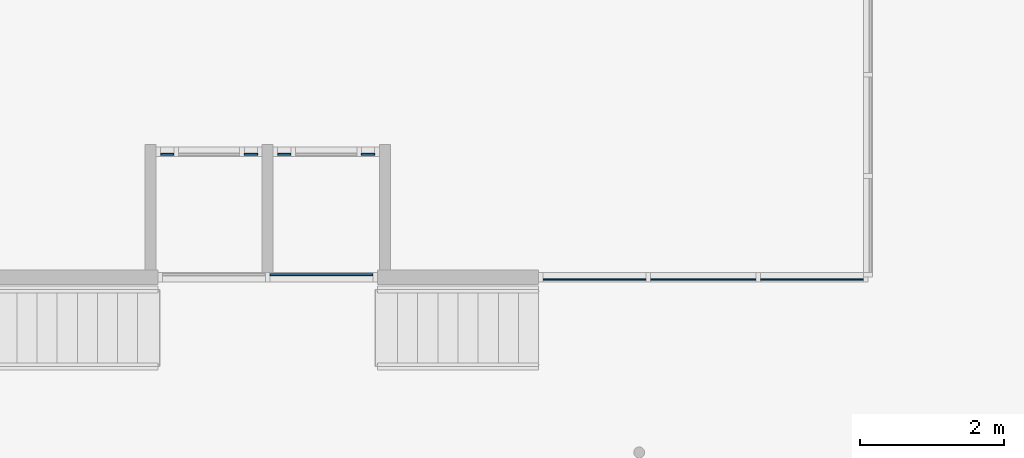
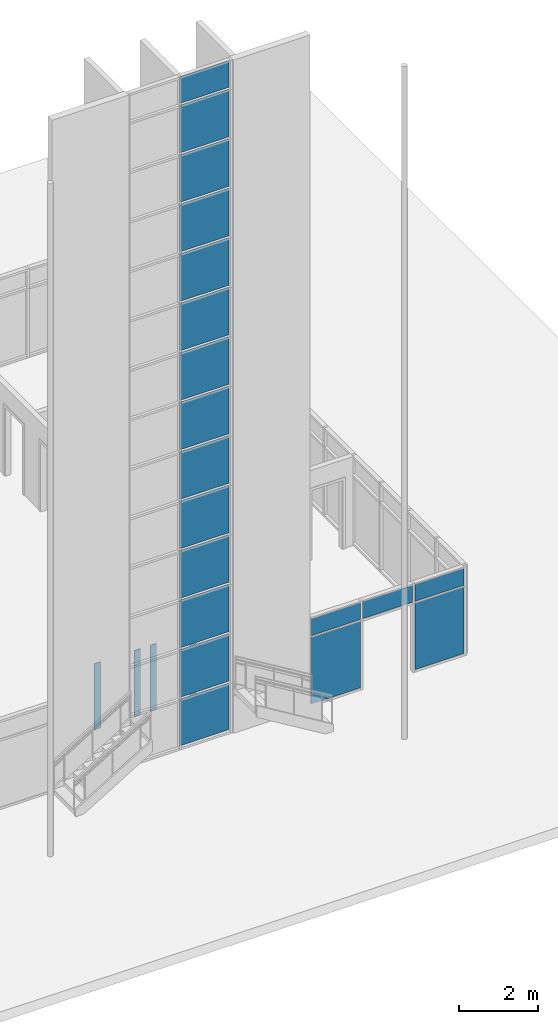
# One storey, part 7 of 12: 23 plates, 4 elements without a shape of their own.
"""IFC2X3 building model written with IfcOpenShell, lengths in feet."""

from ifc_helpers import new_model, entity, si_unit, converted_unit, derived_unit, direction, frame, frame_2d, origin, place, context, subcontext, project, spatial, rectangle, extrude, source, transform, mapped, material, layer, layer_set, layer_usage, type_object, type_shapes, element, aggregate, save


model = new_model("IFC2X3")

# Units and contexts
model_context = context("Model", 3, precision=0.0001, world=origin(), true_north=direction((6.12303176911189e-17, 1.0)))
body_context = subcontext(model_context, "Body", "Model", "MODEL_VIEW")
ifc_project = project(units=[converted_unit("LENGTHUNIT", "FOOT", entity("IfcRatioMeasure", 0.3048), si_unit("LENGTHUNIT", "METRE"), dimensions=[1, 0, 0, 0, 0, 0, 0]), converted_unit("AREAUNIT", "SQUARE FOOT", entity("IfcRatioMeasure", 0.09290304), si_unit("AREAUNIT", "SQUARE_METRE"), dimensions=[2, 0, 0, 0, 0, 0, 0]), converted_unit("VOLUMEUNIT", "CUBIC FOOT", entity("IfcRatioMeasure", 0.028316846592), si_unit("VOLUMEUNIT", "CUBIC_METRE"), dimensions=[3, 0, 0, 0, 0, 0, 0]), converted_unit("PLANEANGLEUNIT", "DEGREE", entity("IfcRatioMeasure", 0.0174532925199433), si_unit("PLANEANGLEUNIT", "RADIAN"), dimensions=[0, 0, 0, 0, 0, 0, 0]), si_unit("MASSUNIT", "GRAM", prefix="KILO"), derived_unit("MASSDENSITYUNIT", [(si_unit("MASSUNIT", "GRAM", prefix="KILO"), 1), (si_unit("LENGTHUNIT", "METRE"), -3)]), si_unit("TIMEUNIT", "SECOND"), si_unit("FREQUENCYUNIT", "HERTZ"), si_unit("THERMODYNAMICTEMPERATUREUNIT", "DEGREE_CELSIUS"), derived_unit("THERMALTRANSMITTANCEUNIT", [(si_unit("MASSUNIT", "GRAM", prefix="KILO"), 1), (si_unit("THERMODYNAMICTEMPERATUREUNIT", "KELVIN"), -1), (si_unit("TIMEUNIT", "SECOND"), -3)]), derived_unit("VOLUMETRICFLOWRATEUNIT", [(si_unit("LENGTHUNIT", "METRE"), 3), (si_unit("TIMEUNIT", "SECOND"), -1)]), si_unit("ELECTRICCURRENTUNIT", "AMPERE"), si_unit("ELECTRICVOLTAGEUNIT", "VOLT"), si_unit("POWERUNIT", "WATT"), si_unit("FORCEUNIT", "NEWTON"), si_unit("ILLUMINANCEUNIT", "LUX"), si_unit("LUMINOUSFLUXUNIT", "LUMEN"), si_unit("LUMINOUSINTENSITYUNIT", "CANDELA"), derived_unit("USERDEFINED", [(si_unit("MASSUNIT", "GRAM", prefix="KILO"), -1), (si_unit("LENGTHUNIT", "METRE"), -2), (si_unit("TIMEUNIT", "SECOND"), 3), (si_unit("LUMINOUSFLUXUNIT", "LUMEN"), 1)]), derived_unit("LINEARVELOCITYUNIT", [(si_unit("LENGTHUNIT", "METRE"), 1), (si_unit("TIMEUNIT", "SECOND"), -1)]), si_unit("PRESSUREUNIT", "PASCAL"), derived_unit("USERDEFINED", [(si_unit("LENGTHUNIT", "METRE"), -2), (si_unit("MASSUNIT", "GRAM", prefix="KILO"), 1), (si_unit("TIMEUNIT", "SECOND"), -2)])], contexts=[model_context])

# Site, building, storey
site_placement = place(None, origin())
site = spatial("IfcSite", under=ifc_project, at=site_placement, Name="Default", CompositionType="ELEMENT")
building_placement = place(site_placement, origin())
building = spatial("IfcBuilding", under=site, at=building_placement, CompositionType="ELEMENT")
storey_placement = place(building_placement, origin())
storey = spatial("IfcBuildingStorey", under=building, at=storey_placement, Name="Level 1", CompositionType="ELEMENT", Elevation=0.0)

# Curtain wall, plates
curtain_wall_type_1 = type_object("IfcCurtainWallType", Name="Curtain Wall:Storefront", PredefinedType="NOTDEFINED")
curtain_wall_1_placement = place(storey_placement, origin())
curtain_wall_1 = element("IfcCurtainWall", 1, at=curtain_wall_1_placement, inside=storey, type_object=curtain_wall_type_1, Name="Curtain Wall:Storefront", ObjectType="Curtain Wall:Storefront")
ifc_material = material(Name="<Unnamed>")
ifc_layer = layer(ifc_material, 0.0833333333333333)
ifc_layer_set = layer_set([ifc_layer], Name="Curtain Wall:Storefront")
ifc_layer_usage_1 = layer_usage(ifc_layer_set, "AXIS3", "POSITIVE", 0.104166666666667)
plate_type_1 = type_object("IfcPlateType", Name="Glazed", PredefinedType="CURTAIN_PANEL", material=ifc_layer_set)
shared_shape_1 = source(origin(), body_context, "Body", "SweptSolid", [
    extrude(rectangle(XDim=0.0833333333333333, YDim=4.6875, at=frame_2d((-6.93889390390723e-18, 0.0), x_axis=(1.0, 0.0))), frame((0.0, 0.104166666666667, 0.0), z_axis=(0.0, 0.0, 1.0), x_axis=(0.0, 1.0, 0.0)), (0.0, 0.0, 1.0), 4.6875),
])
type_shapes(plate_type_1, [shared_shape_1])
plate_1_placement = place(curtain_wall_1_placement, frame((-31.5439127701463, -6.94114126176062, 0.208333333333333)))
plate_1 = element("IfcPlate", 2, at=plate_1_placement, type_object=plate_type_1, material=ifc_layer_usage_1, Name="System Panel:Glazed", ObjectType="Glazed", context=body_context, shape_type="MappedRepresentation", body=[
    mapped(shared_shape_1, transform((0.0, 0.0, 0.0), scale=1.0)),
])
ifc_layer_usage_2 = layer_usage(ifc_layer_set, "AXIS3", "POSITIVE", 0.104166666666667)
plate_type_2 = type_object("IfcPlateType", Name="Glazed", PredefinedType="CURTAIN_PANEL", material=ifc_layer_set)
shared_shape_2 = source(origin(), body_context, "Body", "SweptSolid", [
    extrude(rectangle(XDim=0.0833333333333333, YDim=4.6875, at=frame_2d((-6.93889390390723e-18, 0.0), x_axis=(1.0, 0.0))), frame((0.0, 0.104166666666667, 0.0), z_axis=(0.0, 0.0, 1.0), x_axis=(0.0, 1.0, 0.0)), (0.0, 0.0, 1.0), 4.79166666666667),
])
type_shapes(plate_type_2, [shared_shape_2])
plate_2_placement = place(curtain_wall_1_placement, frame((-31.5439127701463, -6.94114126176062, 5.10416666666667)))
plate_2 = element("IfcPlate", 3, at=plate_2_placement, type_object=plate_type_2, material=ifc_layer_usage_2, Name="System Panel:Glazed", ObjectType="Glazed", context=body_context, shape_type="MappedRepresentation", body=[
    mapped(shared_shape_2, transform((0.0, 0.0, 0.0), scale=1.0)),
])
ifc_layer_usage_3 = layer_usage(ifc_layer_set, "AXIS3", "POSITIVE", 0.104166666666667)
plate_3_placement = place(curtain_wall_1_placement, frame((-31.5439127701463, -6.94114126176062, 10.1041666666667)))
plate_3 = element("IfcPlate", 4, at=plate_3_placement, type_object=plate_type_2, material=ifc_layer_usage_3, Name="System Panel:Glazed", ObjectType="Glazed", context=body_context, shape_type="MappedRepresentation", body=[
    mapped(shared_shape_2, transform((0.0, 0.0, 0.0), scale=1.0)),
])
ifc_layer_usage_4 = layer_usage(ifc_layer_set, "AXIS3", "POSITIVE", 0.104166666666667)
plate_4_placement = place(curtain_wall_1_placement, frame((-31.5439127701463, -6.94114126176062, 15.1041666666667)))
plate_4 = element("IfcPlate", 5, at=plate_4_placement, type_object=plate_type_2, material=ifc_layer_usage_4, Name="System Panel:Glazed", ObjectType="Glazed", context=body_context, shape_type="MappedRepresentation", body=[
    mapped(shared_shape_2, transform((0.0, 0.0, 0.0), scale=1.0)),
])
ifc_layer_usage_5 = layer_usage(ifc_layer_set, "AXIS3", "POSITIVE", 0.104166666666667)
plate_5_placement = place(curtain_wall_1_placement, frame((-31.5439127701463, -6.94114126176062, 20.1041666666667)))
plate_5 = element("IfcPlate", 6, at=plate_5_placement, type_object=plate_type_2, material=ifc_layer_usage_5, Name="System Panel:Glazed", ObjectType="Glazed", context=body_context, shape_type="MappedRepresentation", body=[
    mapped(shared_shape_2, transform((0.0, 0.0, 0.0), scale=1.0)),
])
ifc_layer_usage_6 = layer_usage(ifc_layer_set, "AXIS3", "POSITIVE", 0.104166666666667)
plate_6_placement = place(curtain_wall_1_placement, frame((-31.5439127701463, -6.94114126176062, 25.1041666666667)))
plate_6 = element("IfcPlate", 7, at=plate_6_placement, type_object=plate_type_2, material=ifc_layer_usage_6, Name="System Panel:Glazed", ObjectType="Glazed", context=body_context, shape_type="MappedRepresentation", body=[
    mapped(shared_shape_2, transform((0.0, 0.0, 0.0), scale=1.0)),
])
ifc_layer_usage_7 = layer_usage(ifc_layer_set, "AXIS3", "POSITIVE", 0.104166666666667)
plate_7_placement = place(curtain_wall_1_placement, frame((-31.5439127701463, -6.94114126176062, 30.1041666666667)))
plate_7 = element("IfcPlate", 8, at=plate_7_placement, type_object=plate_type_2, material=ifc_layer_usage_7, Name="System Panel:Glazed", ObjectType="Glazed", context=body_context, shape_type="MappedRepresentation", body=[
    mapped(shared_shape_2, transform((0.0, 0.0, 0.0), scale=1.0)),
])
ifc_layer_usage_8 = layer_usage(ifc_layer_set, "AXIS3", "POSITIVE", 0.104166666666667)
plate_8_placement = place(curtain_wall_1_placement, frame((-31.5439127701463, -6.94114126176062, 35.1041666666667)))
plate_8 = element("IfcPlate", 9, at=plate_8_placement, type_object=plate_type_2, material=ifc_layer_usage_8, Name="System Panel:Glazed", ObjectType="Glazed", context=body_context, shape_type="MappedRepresentation", body=[
    mapped(shared_shape_2, transform((0.0, 0.0, 0.0), scale=1.0)),
])
ifc_layer_usage_9 = layer_usage(ifc_layer_set, "AXIS3", "POSITIVE", 0.104166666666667)
plate_9_placement = place(curtain_wall_1_placement, frame((-31.5439127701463, -6.94114126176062, 40.1041666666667)))
plate_9 = element("IfcPlate", 10, at=plate_9_placement, type_object=plate_type_2, material=ifc_layer_usage_9, Name="System Panel:Glazed", ObjectType="Glazed", context=body_context, shape_type="MappedRepresentation", body=[
    mapped(shared_shape_2, transform((0.0, 0.0, 0.0), scale=1.0)),
])
ifc_layer_usage_10 = layer_usage(ifc_layer_set, "AXIS3", "POSITIVE", 0.104166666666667)
plate_10_placement = place(curtain_wall_1_placement, frame((-31.5439127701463, -6.94114126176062, 45.1041666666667)))
plate_10 = element("IfcPlate", 11, at=plate_10_placement, type_object=plate_type_2, material=ifc_layer_usage_10, Name="System Panel:Glazed", ObjectType="Glazed", context=body_context, shape_type="MappedRepresentation", body=[
    mapped(shared_shape_2, transform((0.0, 0.0, 0.0), scale=1.0)),
])
ifc_layer_usage_11 = layer_usage(ifc_layer_set, "AXIS3", "POSITIVE", 0.104166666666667)
plate_11_placement = place(curtain_wall_1_placement, frame((-31.5439127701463, -6.94114126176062, 50.1041666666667)))
plate_11 = element("IfcPlate", 12, at=plate_11_placement, type_object=plate_type_2, material=ifc_layer_usage_11, Name="System Panel:Glazed", ObjectType="Glazed", context=body_context, shape_type="MappedRepresentation", body=[
    mapped(shared_shape_2, transform((0.0, 0.0, 0.0), scale=1.0)),
])
ifc_layer_usage_12 = layer_usage(ifc_layer_set, "AXIS3", "POSITIVE", 0.104166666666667)
plate_12_placement = place(curtain_wall_1_placement, frame((-31.5439127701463, -6.94114126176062, 55.1041666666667)))
plate_12 = element("IfcPlate", 13, at=plate_12_placement, type_object=plate_type_2, material=ifc_layer_usage_12, Name="System Panel:Glazed", ObjectType="Glazed", context=body_context, shape_type="MappedRepresentation", body=[
    mapped(shared_shape_2, transform((0.0, 0.0, 0.0), scale=1.0)),
])
ifc_layer_usage_13 = layer_usage(ifc_layer_set, "AXIS3", "POSITIVE", 0.104166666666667)
plate_13_placement = place(curtain_wall_1_placement, frame((-31.5439127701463, -6.94114126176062, 60.1041666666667)))
plate_13 = element("IfcPlate", 14, at=plate_13_placement, type_object=plate_type_2, material=ifc_layer_usage_13, Name="System Panel:Glazed", ObjectType="Glazed", context=body_context, shape_type="MappedRepresentation", body=[
    mapped(shared_shape_2, transform((0.0, 0.0, 0.0), scale=1.0)),
])
ifc_layer_usage_14 = layer_usage(ifc_layer_set, "AXIS3", "POSITIVE", 0.104166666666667)
plate_type_3 = type_object("IfcPlateType", Name="Glazed", PredefinedType="CURTAIN_PANEL", material=ifc_layer_set)
shared_shape_3 = source(origin(), body_context, "Body", "SweptSolid", [
    extrude(rectangle(XDim=0.0833333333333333, YDim=4.6875, at=frame_2d((-6.93889390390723e-18, 0.0), x_axis=(1.0, 0.0))), frame((0.0, 0.104166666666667, 0.0), z_axis=(0.0, 0.0, 1.0), x_axis=(0.0, 1.0, 0.0)), (0.0, 0.0, 1.0), 2.6875),
])
type_shapes(plate_type_3, [shared_shape_3])
plate_14_placement = place(curtain_wall_1_placement, frame((-31.5439127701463, -6.94114126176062, 65.1041666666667)))
plate_14 = element("IfcPlate", 15, at=plate_14_placement, type_object=plate_type_3, material=ifc_layer_usage_14, Name="System Panel:Glazed", ObjectType="Glazed", context=body_context, shape_type="MappedRepresentation", body=[
    mapped(shared_shape_3, transform((0.0, 0.0, 0.0), scale=1.0)),
])
aggregate(curtain_wall_1, [plate_1, plate_2, plate_3, plate_4, plate_5, plate_6, plate_7, plate_8, plate_9, plate_10, plate_11, plate_12, plate_13, plate_14])

curtain_wall_type_2 = type_object("IfcCurtainWallType", Name="Curtain Wall:Storefront 2", PredefinedType="NOTDEFINED")
curtain_wall_2_placement = place(storey_placement, origin())
curtain_wall_2 = element("IfcCurtainWall", 16, at=curtain_wall_2_placement, inside=storey, type_object=curtain_wall_type_2, Name="Curtain Wall:Storefront 2", ObjectType="Curtain Wall:Storefront 2")
ifc_layer_usage_15 = layer_usage(ifc_layer_set, "AXIS3", "POSITIVE", 0.104166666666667)
plate_type_4 = type_object("IfcPlateType", Name="Glazed", PredefinedType="CURTAIN_PANEL", material=ifc_layer_set)
shared_shape_4 = source(origin(), body_context, "Body", "SweptSolid", [
    extrude(rectangle(XDim=0.0833333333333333, YDim=4.6875, at=frame_2d((-6.93889390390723e-18, 0.0), x_axis=(1.0, 0.0))), frame((0.0, 0.104166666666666, 0.0), z_axis=(0.0, 0.0, 1.0), x_axis=(0.0, 1.0, 0.0)), (0.0, 0.0, 1.0), 6.6875),
])
type_shapes(plate_type_4, [shared_shape_4])
plate_15_placement = place(curtain_wall_2_placement, frame((-9.21057943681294, -6.94114126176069, 0.208333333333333), z_axis=(0.0, 0.0, 1.0), x_axis=(-1.0, 0.0, 0.0)))
plate_15 = element("IfcPlate", 17, at=plate_15_placement, type_object=plate_type_4, material=ifc_layer_usage_15, Name="System Panel:Glazed", ObjectType="Glazed", context=body_context, shape_type="MappedRepresentation", body=[
    mapped(shared_shape_4, transform((0.0, 0.0, 0.0), scale=1.0)),
])
ifc_layer_usage_16 = layer_usage(ifc_layer_set, "AXIS3", "POSITIVE", 0.104166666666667)
plate_16_placement = place(curtain_wall_2_placement, frame((-19.1064127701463, -6.94114126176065, 0.208333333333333), z_axis=(0.0, 0.0, 1.0), x_axis=(-1.0, 0.0, 0.0)))
plate_16 = element("IfcPlate", 18, at=plate_16_placement, type_object=plate_type_4, material=ifc_layer_usage_16, Name="System Panel:Glazed", ObjectType="Glazed", context=body_context, shape_type="MappedRepresentation", body=[
    mapped(shared_shape_4, transform((0.0, 0.0, 0.0), scale=1.0)),
])
ifc_layer_usage_17 = layer_usage(ifc_layer_set, "AXIS3", "POSITIVE", 0.104166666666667)
plate_type_5 = type_object("IfcPlateType", Name="Glazed", PredefinedType="CURTAIN_PANEL", material=ifc_layer_set)
shared_shape_5 = source(origin(), body_context, "Body", "SweptSolid", [
    extrude(rectangle(XDim=0.0833333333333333, YDim=4.6875, at=frame_2d((-6.93889390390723e-18, 0.0), x_axis=(1.0, 0.0))), frame((0.0, 0.104166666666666, 0.0), z_axis=(0.0, 0.0, 1.0), x_axis=(0.0, 1.0, 0.0)), (0.0, 0.0, 1.0), 1.6875),
])
type_shapes(plate_type_5, [shared_shape_5])
plate_17_placement = place(curtain_wall_2_placement, frame((-9.21057943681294, -6.94114126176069, 7.10416666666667), z_axis=(0.0, 0.0, 1.0), x_axis=(-1.0, 0.0, 0.0)))
plate_17 = element("IfcPlate", 19, at=plate_17_placement, type_object=plate_type_5, material=ifc_layer_usage_17, Name="System Panel:Glazed", ObjectType="Glazed", context=body_context, shape_type="MappedRepresentation", body=[
    mapped(shared_shape_5, transform((0.0, 0.0, 0.0), scale=1.0)),
])
ifc_layer_usage_18 = layer_usage(ifc_layer_set, "AXIS3", "POSITIVE", 0.104166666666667)
plate_18_placement = place(curtain_wall_2_placement, frame((-19.1064127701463, -6.94114126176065, 7.10416666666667), z_axis=(0.0, 0.0, 1.0), x_axis=(-1.0, 0.0, 0.0)))
plate_18 = element("IfcPlate", 20, at=plate_18_placement, type_object=plate_type_5, material=ifc_layer_usage_18, Name="System Panel:Glazed", ObjectType="Glazed", context=body_context, shape_type="MappedRepresentation", body=[
    mapped(shared_shape_5, transform((0.0, 0.0, 0.0), scale=1.0)),
])
ifc_layer_usage_19 = layer_usage(ifc_layer_set, "AXIS3", "POSITIVE", 0.104166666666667)
plate_type_6 = type_object("IfcPlateType", Name="Glazed", PredefinedType="CURTAIN_PANEL", material=ifc_layer_set)
shared_shape_6 = source(origin(), body_context, "Body", "SweptSolid", [
    extrude(rectangle(XDim=0.0833333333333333, YDim=4.79166666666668, at=frame_2d((-6.93889390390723e-18, 0.0), x_axis=(1.0, 0.0))), frame((0.0, 0.104166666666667, 0.0), z_axis=(0.0, 0.0, 1.0), x_axis=(0.0, 1.0, 0.0)), (0.0, 0.0, 1.0), 1.6875),
])
type_shapes(plate_type_6, [shared_shape_6])
plate_19_placement = place(curtain_wall_2_placement, frame((-14.1584961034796, -6.94114126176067, 7.10416666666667), z_axis=(0.0, 0.0, 1.0), x_axis=(-1.0, 0.0, 0.0)))
plate_19 = element("IfcPlate", 21, at=plate_19_placement, type_object=plate_type_6, material=ifc_layer_usage_19, Name="System Panel:Glazed", ObjectType="Glazed", context=body_context, shape_type="MappedRepresentation", body=[
    mapped(shared_shape_6, transform((0.0, 0.0, 0.0), scale=1.0)),
])
aggregate(curtain_wall_2, [plate_15, plate_16, plate_17, plate_19, plate_18])

curtain_wall_3_placement = place(storey_placement, origin())
curtain_wall_3 = element("IfcCurtainWall", 22, at=curtain_wall_3_placement, inside=storey, type_object=curtain_wall_type_2, Name="Curtain Wall:Storefront 2", ObjectType="Curtain Wall:Storefront 2")
ifc_layer_usage_20 = layer_usage(ifc_layer_set, "AXIS3", "POSITIVE", 0.104166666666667)
plate_type_7 = type_object("IfcPlateType", Name="Glazed", PredefinedType="CURTAIN_PANEL", material=ifc_layer_set)
shared_shape_7 = source(origin(), body_context, "Body", "SweptSolid", [
    extrude(rectangle(XDim=0.0833333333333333, YDim=0.604166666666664, at=frame_2d((-6.93889390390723e-18, -2.77555756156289e-17), x_axis=(1.0, 0.0))), frame((0.0, 0.104166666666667, 0.0), z_axis=(0.0, 0.0, 1.0), x_axis=(0.0, 1.0, 0.0)), (0.0, 0.0, 1.0), 6.6875),
])
type_shapes(plate_type_7, [shared_shape_7])
plate_20_placement = place(curtain_wall_3_placement, frame((-34.7522461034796, -1.23280792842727, 0.208333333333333), z_axis=(0.0, 0.0, 1.0), x_axis=(-1.0, 0.0, 0.0)))
plate_20 = element("IfcPlate", 23, at=plate_20_placement, type_object=plate_type_7, material=ifc_layer_usage_20, Name="System Panel:Glazed", ObjectType="Glazed", context=body_context, shape_type="MappedRepresentation", body=[
    mapped(shared_shape_7, transform((0.0, 0.0, 0.0), scale=1.0)),
])
ifc_layer_usage_21 = layer_usage(ifc_layer_set, "AXIS3", "POSITIVE", 0.104166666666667)
plate_21_placement = place(curtain_wall_3_placement, frame((-38.5647461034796, -1.23280792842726, 0.208333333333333), z_axis=(0.0, 0.0, 1.0), x_axis=(-1.0, 0.0, 0.0)))
plate_21 = element("IfcPlate", 24, at=plate_21_placement, type_object=plate_type_7, material=ifc_layer_usage_21, Name="System Panel:Glazed", ObjectType="Glazed", context=body_context, shape_type="MappedRepresentation", body=[
    mapped(shared_shape_7, transform((0.0, 0.0, 0.0), scale=1.0)),
])
aggregate(curtain_wall_3, [plate_20, plate_21])

curtain_wall_4_placement = place(storey_placement, origin())
curtain_wall_4 = element("IfcCurtainWall", 25, at=curtain_wall_4_placement, inside=storey, type_object=curtain_wall_type_2, Name="Curtain Wall:Storefront 2", ObjectType="Curtain Wall:Storefront 2")
ifc_layer_usage_22 = layer_usage(ifc_layer_set, "AXIS3", "POSITIVE", 0.104166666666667)
plate_22_placement = place(curtain_wall_4_placement, frame((-29.4189127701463, -1.23280792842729, 0.208333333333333), z_axis=(0.0, 0.0, 1.0), x_axis=(-1.0, 0.0, 0.0)))
plate_22 = element("IfcPlate", 26, at=plate_22_placement, type_object=plate_type_7, material=ifc_layer_usage_22, Name="System Panel:Glazed", ObjectType="Glazed", context=body_context, shape_type="MappedRepresentation", body=[
    mapped(shared_shape_7, transform((0.0, 0.0, 0.0), scale=1.0)),
])
ifc_layer_usage_23 = layer_usage(ifc_layer_set, "AXIS3", "POSITIVE", 0.104166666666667)
plate_23_placement = place(curtain_wall_4_placement, frame((-33.2314127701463, -1.23280792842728, 0.208333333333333), z_axis=(0.0, 0.0, 1.0), x_axis=(-1.0, 0.0, 0.0)))
plate_23 = element("IfcPlate", 27, at=plate_23_placement, type_object=plate_type_7, material=ifc_layer_usage_23, Name="System Panel:Glazed", ObjectType="Glazed", context=body_context, shape_type="MappedRepresentation", body=[
    mapped(shared_shape_7, transform((0.0, 0.0, 0.0), scale=1.0)),
])
aggregate(curtain_wall_4, [plate_22, plate_23])

save(model, "model.ifc")
